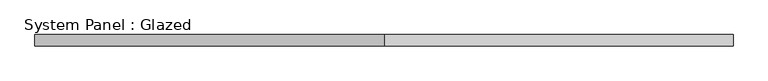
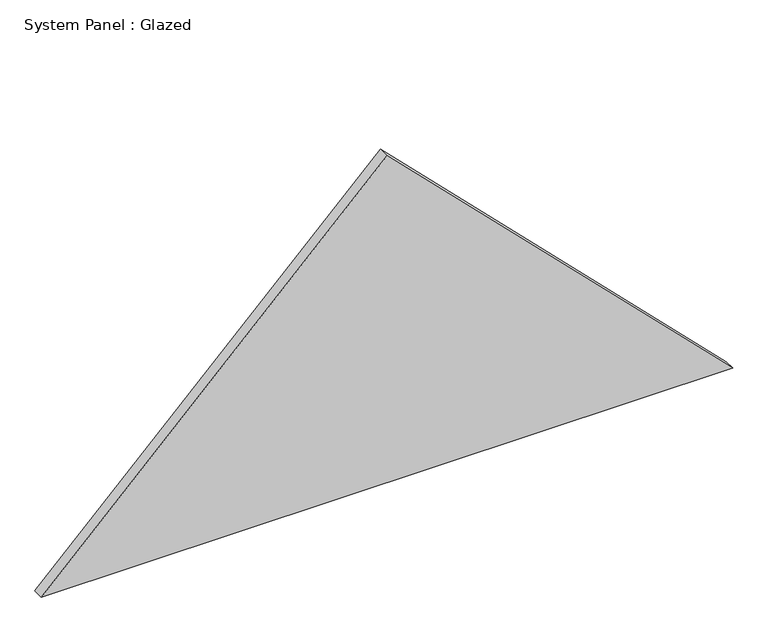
"""IFC4 building model written with IfcOpenShell, lengths in millimetres: plate geometry, System Panel : Glazed."""

from ifc_helpers import new_model, si_unit, frame, origin, place, context, project, spatial, polyline, outline, extrude, source, transform, mapped, element, save


def system_panel_glazed_ad8dc7ae(model_context):
    return source(origin(), model_context, "Body", "SweptSolid", [
        extrude(outline(polyline([(0.0, -775.0), (0.0, 775.0), (775.0, 0.0), (0.0, -775.0)])), frame((0.0, -49.5, 0.0), z_axis=(0.0, 1.0, 0.0), x_axis=(0.0, 0.0, 1.0)), (0.0, 0.0, 1.0), 25.0),
    ])


if __name__ == "__main__":
    model = new_model("IFC4")
    model_context = context("Model", 3, world=origin())
    ifc_project = project(units=[si_unit("LENGTHUNIT", "METRE", prefix="MILLI")], contexts=[model_context])
    site = spatial("IfcSite", under=ifc_project)
    building = spatial("IfcBuilding", under=site)
    placement = place(None, origin())
    system_panel_glazed_shape = system_panel_glazed_ad8dc7ae(model_context)
    element("IfcPlate", 1, ObjectType="System Panel : Glazed", at=placement, inside=building, context=model_context, shape_type="MappedRepresentation", body=[
        mapped(system_panel_glazed_shape, transform((0.0, 0.0, 0.0), x_axis=(1.0, 0.0, 0.0), y_axis=(0.0, 1.0, 0.0), z_axis=(0.0, 0.0, 1.0))),
    ])
    save(model, "model.ifc")
